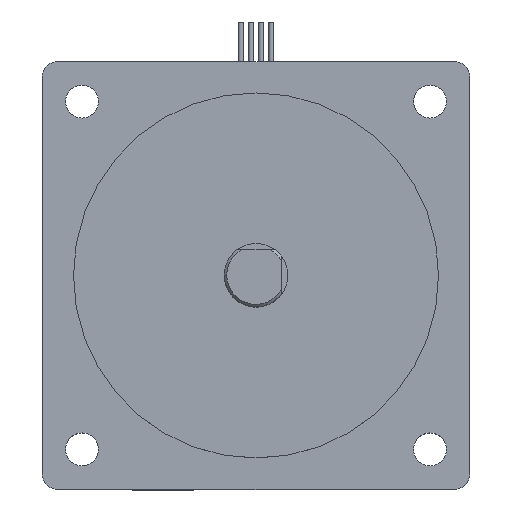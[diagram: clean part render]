
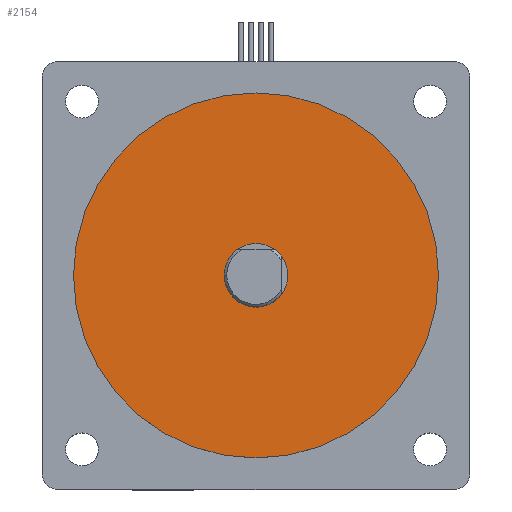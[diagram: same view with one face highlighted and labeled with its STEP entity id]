
A CAD part, top view. The second image highlights one B-rep face of the part: STEP entity #2154.
In plain terms, the highlighted planar face has unit normal (0, 0, 1).
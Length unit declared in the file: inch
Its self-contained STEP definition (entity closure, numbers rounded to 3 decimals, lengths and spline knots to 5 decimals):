
#225=CARTESIAN_POINT('',(-1.4375,0.,2.68));
#226=VERTEX_POINT('',#225);
#242=CARTESIAN_POINT('',(1.4375,0.,2.68));
#243=VERTEX_POINT('',#242);
#250=CARTESIAN_POINT('',(0.0,0.0,2.68));
#251=DIRECTION('',(0.0,0.0,-1.0));
#252=DIRECTION('',(-1.0,0.0,0.0));
#253=AXIS2_PLACEMENT_3D('',#250,#251,#252);
#254=CIRCLE('',#253,1.4375);
#255=EDGE_CURVE('',#243,#226,#254,.T.);
#433=CARTESIAN_POINT('',(-0.25,0.,2.68));
#434=VERTEX_POINT('',#433);
#443=CARTESIAN_POINT('',(0.25,0.,2.68));
#444=VERTEX_POINT('',#443);
#445=CARTESIAN_POINT('',(0.0,0.0,2.68));
#446=DIRECTION('',(0.0,0.0,1.0));
#447=DIRECTION('',(-1.0,0.0,0.0));
#448=AXIS2_PLACEMENT_3D('',#445,#446,#447);
#449=CIRCLE('',#448,0.25);
#450=EDGE_CURVE('',#434,#444,#449,.T.);
#787=CARTESIAN_POINT('',(0.0,0.0,2.68));
#788=DIRECTION('',(0.0,0.0,1.0));
#789=DIRECTION('',(-1.0,0.0,0.0));
#790=AXIS2_PLACEMENT_3D('',#787,#788,#789);
#791=CIRCLE('',#790,0.25);
#792=EDGE_CURVE('',#444,#434,#791,.T.);
#2135=CARTESIAN_POINT('',(0.0,0.0,2.68));
#2136=DIRECTION('',(0.0,0.0,-1.0));
#2137=DIRECTION('',(-1.0,0.0,0.0));
#2138=AXIS2_PLACEMENT_3D('',#2135,#2136,#2137);
#2139=PLANE('',#2138);
#2140=ORIENTED_EDGE('',*,*,#255,.F.);
#2141=CARTESIAN_POINT('',(0.0,0.0,2.68));
#2142=DIRECTION('',(0.0,0.0,-1.0));
#2143=DIRECTION('',(-1.0,0.0,0.0));
#2144=AXIS2_PLACEMENT_3D('',#2141,#2142,#2143);
#2145=CIRCLE('',#2144,1.4375);
#2146=EDGE_CURVE('',#226,#243,#2145,.T.);
#2147=ORIENTED_EDGE('',*,*,#2146,.F.);
#2148=EDGE_LOOP('',(#2140,#2147));
#2149=FACE_OUTER_BOUND('',#2148,.T.);
#2150=ORIENTED_EDGE('',*,*,#792,.F.);
#2151=ORIENTED_EDGE('',*,*,#450,.F.);
#2152=EDGE_LOOP('',(#2150,#2151));
#2153=FACE_BOUND('',#2152,.T.);
#2154=ADVANCED_FACE('',(#2149,#2153),#2139,.F.);
